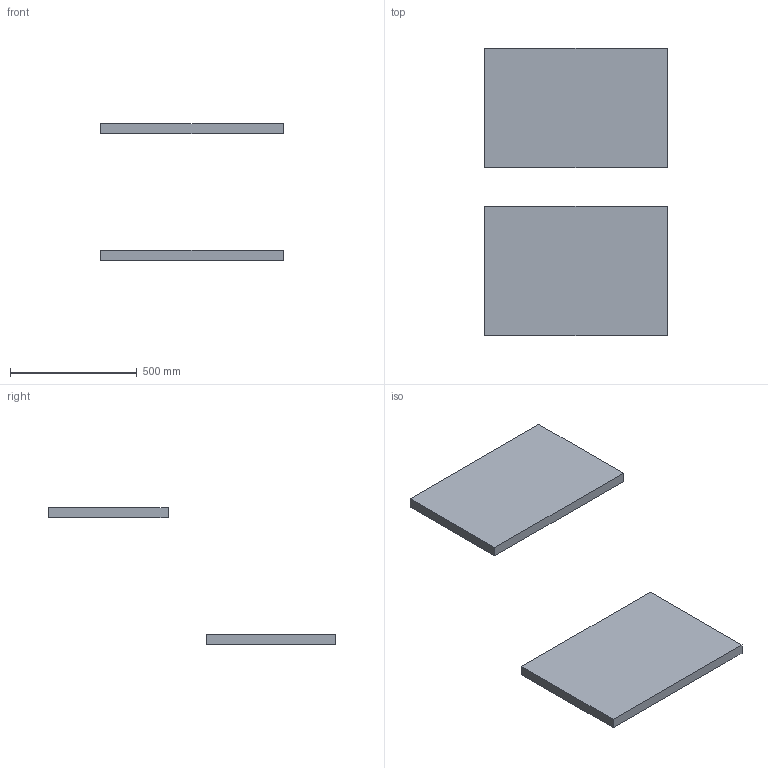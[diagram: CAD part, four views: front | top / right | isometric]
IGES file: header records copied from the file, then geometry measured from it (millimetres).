
Start section: Data from Parasolid IGES Translator 22.0.50, Copyright(c) 2006 Siemens P LM Software. All Rights Reserved.
Global section: file name: noorth-top-H 4 _2929.igs; native system: By Siemens PLM Incorporated; preprocessor: XPlus GENERIC/IGES 22.0.50; author: Noname; organization: Noname; date: 20251109.210307; units: metre
Bounding box: 720 x 1135.35 x 540.11 mm (x, y, z)
Volume: 4836262.2 mm3; surface area: 1680805.2 mm2
Topology: 2 solids, 2 shells, 20 faces, 48 edges, 32 vertices
Faces by surface type: plane 20
